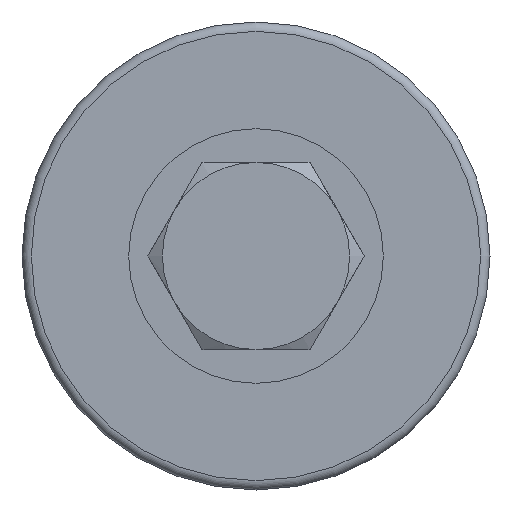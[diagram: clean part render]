
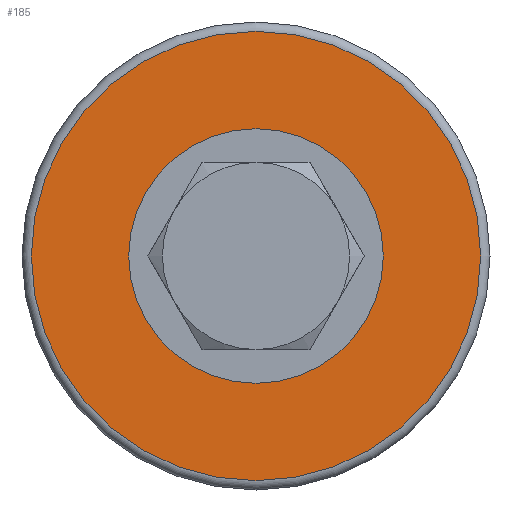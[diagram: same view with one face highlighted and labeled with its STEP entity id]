
A CAD part, front view. The second image highlights one B-rep face of the part: STEP entity #185.
In plain terms, the highlighted planar face has unit normal (0, -1, 0).
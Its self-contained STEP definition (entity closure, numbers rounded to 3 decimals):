
#185=ADVANCED_FACE('',(#260,#261),#262,.F.);
#260=FACE_BOUND('',#384,.T.);
#261=FACE_OUTER_BOUND('',#385,.T.);
#262=PLANE('',#386);
#384=EDGE_LOOP('',(#569));
#385=EDGE_LOOP('',(#570));
#386=AXIS2_PLACEMENT_3D('',#571,#572,#573);
#569=ORIENTED_EDGE('',*,*,#863,.F.);
#570=ORIENTED_EDGE('',*,*,#862,.T.);
#571=CARTESIAN_POINT('',(12.,-18.,0.0));
#572=DIRECTION('',(0.0,1.0,0.0));
#573=DIRECTION('',(0.0,0.0,1.0));
#862=EDGE_CURVE('',#994,#994,#995,.T.);
#863=EDGE_CURVE('',#996,#996,#997,.T.);
#994=VERTEX_POINT('',#1231);
#995=CIRCLE('',#1232,12.);
#996=VERTEX_POINT('',#1233);
#997=CIRCLE('',#1234,6.8);
#1231=CARTESIAN_POINT('',(0.,-18.,-12.));
#1232=AXIS2_PLACEMENT_3D('',#1448,#1449,#1450);
#1233=CARTESIAN_POINT('',(0.,-18.0,-6.8));
#1234=AXIS2_PLACEMENT_3D('',#1451,#1452,#1453);
#1448=CARTESIAN_POINT('',(0.,-18.,0.0));
#1449=DIRECTION('',(0.0,-1.0,0.0));
#1450=DIRECTION('',(0.0,0.0,-1.0));
#1451=CARTESIAN_POINT('',(0.,-18.0,0.0));
#1452=DIRECTION('',(0.0,-1.0,0.0));
#1453=DIRECTION('',(0.0,0.0,-1.0));
